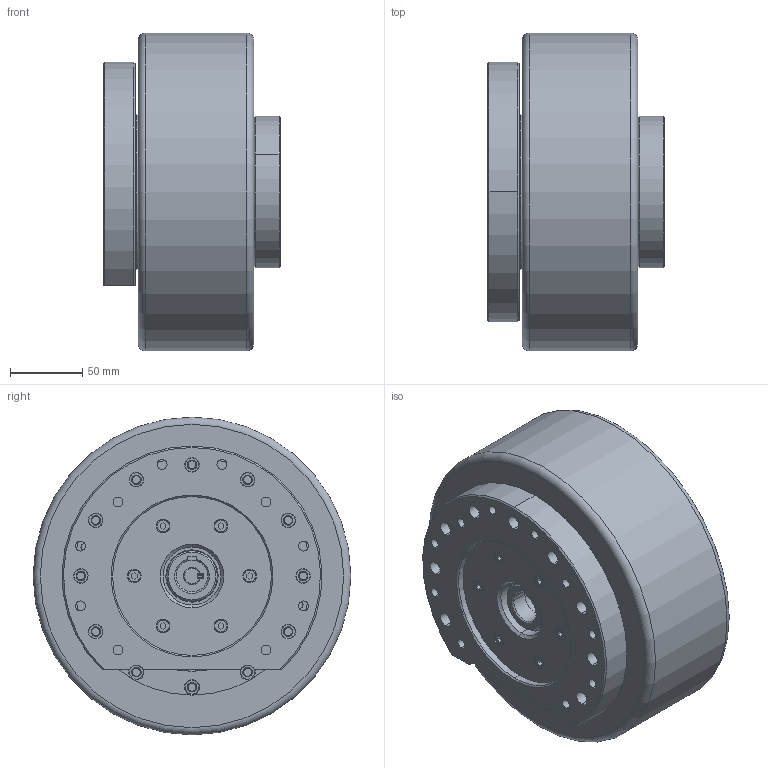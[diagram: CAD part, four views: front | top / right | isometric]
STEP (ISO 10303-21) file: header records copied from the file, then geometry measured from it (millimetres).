
FILE_DESCRIPTION(/* description */ (''),/* implementation_level */ '2;1');
FILE_NAME(/* name */ 'TYC220.40',/* time_stamp */ '2022-03-04T11:45:04+08:00',/* author */ (''),/* organization */ (''),/* preprocessor_version */ 'ST-DEVELOPER v9',/* originating_system */ 'UGS - NX 4.0',/* authorisation */ '');
FILE_SCHEMA (('AUTOMOTIVE_DESIGN { 1 0 10303 214 1 1 1 1 }'));
Length unit declared in the file: millimetre
Products named in the file (1): wangF1F026jp
Bounding box: 122.5 x 220 x 220 mm (x, y, z)
Volume: 1630075.8 mm3; surface area: 336017.3 mm2
Topology: 17 solids, 18 shells, 992 faces, 2633 edges, 1678 vertices
Faces by surface type: cylinder 311, plane 230, sphere 180, cone 159, torus 112
Full cylindrical faces by diameter (mm): 220 x1
Entity records: 32000 total; most frequent: CARTESIAN_POINT 7690, DIRECTION 5231, ORIENTED_EDGE 5018, EDGE_CURVE 2509, AXIS2_PLACEMENT_3D 2294, VERTEX_POINT 1613, CIRCLE 1301, EDGE_LOOP 1216
